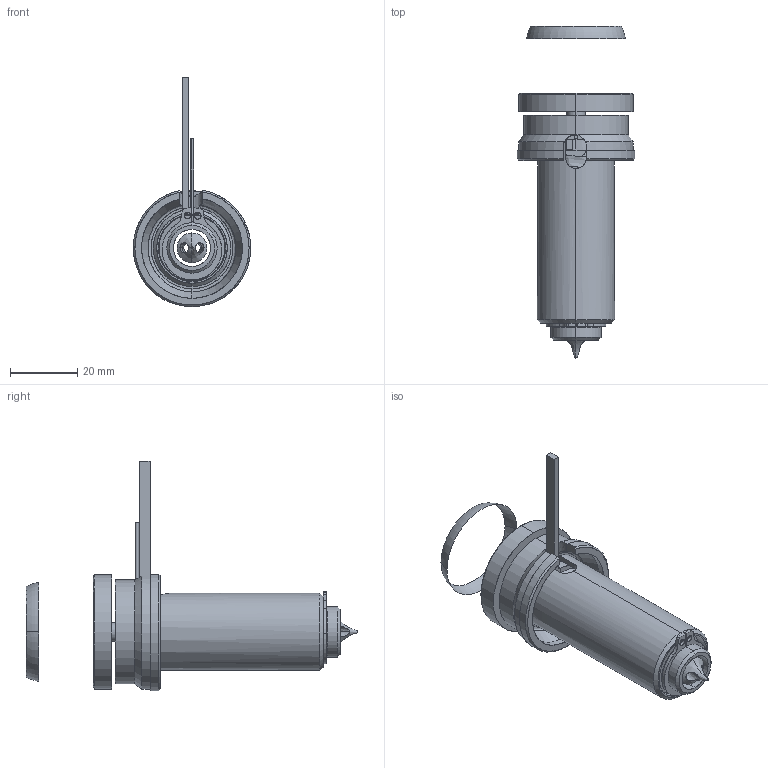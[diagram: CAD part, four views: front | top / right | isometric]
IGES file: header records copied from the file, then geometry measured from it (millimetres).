
Start section: SolidWorks IGES file using analytic representation for surfaces
Global section: file name: C:\Users\luca.EMPAD\Desktop\TEM\UGDL2601-M-A [Øf=0.6 ØC=5.5].IGS; native system: SolidWorks 2012; preprocessor: SolidWorks 2012; author: luca; date: 120330.144919; units: millimetre
Bounding box: 35 x 98.84 x 68.3 mm (x, y, z)
Surface area: 20785.5 mm2 (no closed solid volume)
Topology: 0 solids, 0 shells, 132 faces, 2186 edges, 2182 vertices
Faces by surface type: revolution 76, bspline 56
